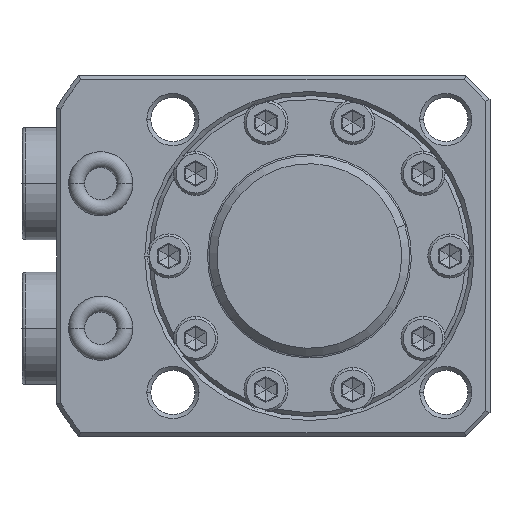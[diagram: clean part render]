
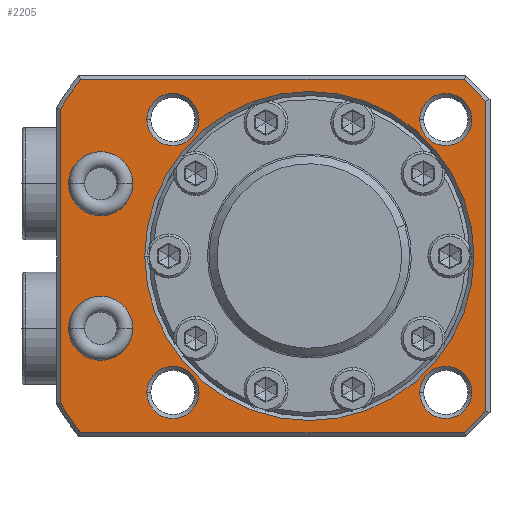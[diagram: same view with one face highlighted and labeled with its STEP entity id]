
A CAD part, front view. The second image highlights one B-rep face of the part: STEP entity #2205.
In plain terms, the highlighted planar face has unit normal (0, -1, 0).
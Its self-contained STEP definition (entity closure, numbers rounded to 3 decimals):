
#300=DIRECTION('',(-1.,0.,0.));
#301=VECTOR('',#300,47.789);
#302=CARTESIAN_POINT('',(19.293,-8.5,22.));
#303=LINE('',#302,#301);
#304=DIRECTION('',(-0.707,0.,0.707));
#305=VECTOR('',#304,3.828);
#306=CARTESIAN_POINT('',(22.,-8.5,19.293));
#307=LINE('',#306,#305);
#308=DIRECTION('',(0.,0.,1.));
#309=VECTOR('',#308,38.586);
#310=CARTESIAN_POINT('',(22.,-8.5,-19.293));
#311=LINE('',#310,#309);
#312=DIRECTION('',(0.707,0.,0.707));
#313=VECTOR('',#312,3.828);
#314=CARTESIAN_POINT('',(19.293,-8.5,-22.));
#315=LINE('',#314,#313);
#316=DIRECTION('',(1.,0.,0.));
#317=VECTOR('',#316,47.789);
#318=CARTESIAN_POINT('',(-28.496,-8.5,-22.));
#319=LINE('',#318,#317);
#320=CARTESIAN_POINT('',(0.,-8.5,0.));
#321=DIRECTION('',(0.,-1.,0.));
#322=DIRECTION('',(-0.861,0.,-0.508));
#323=AXIS2_PLACEMENT_3D('',#320,#321,#322);
#325=DIRECTION('',(0.,0.,-1.));
#326=VECTOR('',#325,36.606);
#327=CARTESIAN_POINT('',(-31.,-8.5,18.303));
#328=LINE('',#327,#326);
#329=CARTESIAN_POINT('',(0.,-8.5,0.));
#330=DIRECTION('',(0.,-1.,0.));
#331=DIRECTION('',(-0.792,0.,0.611));
#332=AXIS2_PLACEMENT_3D('',#329,#330,#331);
#334=CARTESIAN_POINT('',(-26.,-8.5,-9.));
#335=DIRECTION('',(0.,-1.,0.));
#336=DIRECTION('',(-1.,0.,0.));
#337=AXIS2_PLACEMENT_3D('',#334,#335,#336);
#339=CARTESIAN_POINT('',(-26.,-8.5,-9.));
#340=DIRECTION('',(0.,-1.,0.));
#341=DIRECTION('',(1.,0.,0.));
#342=AXIS2_PLACEMENT_3D('',#339,#340,#341);
#344=CARTESIAN_POINT('',(-26.,-8.5,9.));
#345=DIRECTION('',(0.,-1.,0.));
#346=DIRECTION('',(-1.,0.,0.));
#347=AXIS2_PLACEMENT_3D('',#344,#345,#346);
#349=CARTESIAN_POINT('',(-26.,-8.5,9.));
#350=DIRECTION('',(0.,-1.,0.));
#351=DIRECTION('',(1.,0.,0.));
#352=AXIS2_PLACEMENT_3D('',#349,#350,#351);
#354=CARTESIAN_POINT('',(17.,-8.5,17.));
#355=DIRECTION('',(0.,1.,0.));
#356=DIRECTION('',(-1.,0.,0.));
#357=AXIS2_PLACEMENT_3D('',#354,#355,#356);
#359=CARTESIAN_POINT('',(17.,-8.5,17.));
#360=DIRECTION('',(0.,1.,0.));
#361=DIRECTION('',(1.,0.,0.));
#362=AXIS2_PLACEMENT_3D('',#359,#360,#361);
#364=CARTESIAN_POINT('',(17.,-8.5,-17.));
#365=DIRECTION('',(0.,1.,0.));
#366=DIRECTION('',(-1.,0.,0.));
#367=AXIS2_PLACEMENT_3D('',#364,#365,#366);
#369=CARTESIAN_POINT('',(17.,-8.5,-17.));
#370=DIRECTION('',(0.,1.,0.));
#371=DIRECTION('',(1.,0.,0.));
#372=AXIS2_PLACEMENT_3D('',#369,#370,#371);
#374=CARTESIAN_POINT('',(-17.,-8.5,17.));
#375=DIRECTION('',(0.,1.,0.));
#376=DIRECTION('',(-1.,0.,0.));
#377=AXIS2_PLACEMENT_3D('',#374,#375,#376);
#379=CARTESIAN_POINT('',(-17.,-8.5,17.));
#380=DIRECTION('',(0.,1.,0.));
#381=DIRECTION('',(1.,0.,0.));
#382=AXIS2_PLACEMENT_3D('',#379,#380,#381);
#384=CARTESIAN_POINT('',(-17.,-8.5,-17.));
#385=DIRECTION('',(0.,1.,0.));
#386=DIRECTION('',(-1.,0.,0.));
#387=AXIS2_PLACEMENT_3D('',#384,#385,#386);
#389=CARTESIAN_POINT('',(-17.,-8.5,-17.));
#390=DIRECTION('',(0.,1.,0.));
#391=DIRECTION('',(1.,0.,0.));
#392=AXIS2_PLACEMENT_3D('',#389,#390,#391);
#394=CARTESIAN_POINT('',(0.,-8.5,0.));
#395=DIRECTION('',(0.,-1.,0.));
#396=DIRECTION('',(-1.,0.,0.));
#397=AXIS2_PLACEMENT_3D('',#394,#395,#396);
#399=CARTESIAN_POINT('',(0.,-8.5,0.));
#400=DIRECTION('',(0.,-1.,0.));
#401=DIRECTION('',(1.,0.,0.));
#402=AXIS2_PLACEMENT_3D('',#399,#400,#401);
#1489=CARTESIAN_POINT('',(-30.,-8.5,-9.));
#1490=CARTESIAN_POINT('',(-22.,-8.5,-9.));
#1491=VERTEX_POINT('',#1489);
#1492=VERTEX_POINT('',#1490);
#1497=CARTESIAN_POINT('',(-30.,-8.5,9.));
#1498=CARTESIAN_POINT('',(-22.,-8.5,9.));
#1499=VERTEX_POINT('',#1497);
#1500=VERTEX_POINT('',#1498);
#1501=CARTESIAN_POINT('',(13.75,-8.5,17.));
#1502=CARTESIAN_POINT('',(20.25,-8.5,17.));
#1503=VERTEX_POINT('',#1501);
#1504=VERTEX_POINT('',#1502);
#1509=CARTESIAN_POINT('',(13.75,-8.5,-17.));
#1510=CARTESIAN_POINT('',(20.25,-8.5,-17.));
#1511=VERTEX_POINT('',#1509);
#1512=VERTEX_POINT('',#1510);
#1517=CARTESIAN_POINT('',(-20.25,-8.5,17.));
#1518=CARTESIAN_POINT('',(-13.75,-8.5,17.));
#1519=VERTEX_POINT('',#1517);
#1520=VERTEX_POINT('',#1518);
#1525=CARTESIAN_POINT('',(-20.25,-8.5,-17.));
#1526=CARTESIAN_POINT('',(-13.75,-8.5,-17.));
#1527=VERTEX_POINT('',#1525);
#1528=VERTEX_POINT('',#1526);
#1553=CARTESIAN_POINT('',(-20.5,-8.5,0.));
#1554=CARTESIAN_POINT('',(20.5,-8.5,0.));
#1555=VERTEX_POINT('',#1553);
#1556=VERTEX_POINT('',#1554);
#1569=CARTESIAN_POINT('',(19.293,-8.5,22.));
#1570=CARTESIAN_POINT('',(-28.496,-8.5,22.));
#1571=VERTEX_POINT('',#1569);
#1572=VERTEX_POINT('',#1570);
#1589=CARTESIAN_POINT('',(-28.496,-8.5,-22.));
#1590=CARTESIAN_POINT('',(19.293,-8.5,-22.));
#1591=VERTEX_POINT('',#1589);
#1592=VERTEX_POINT('',#1590);
#1597=CARTESIAN_POINT('',(22.,-8.5,-19.293));
#1598=CARTESIAN_POINT('',(22.,-8.5,19.293));
#1599=VERTEX_POINT('',#1597);
#1600=VERTEX_POINT('',#1598);
#1613=CARTESIAN_POINT('',(-31.,-8.5,18.303));
#1614=CARTESIAN_POINT('',(-31.,-8.5,-18.303));
#1615=VERTEX_POINT('',#1613);
#1616=VERTEX_POINT('',#1614);
#2141=CARTESIAN_POINT('',(0.,-8.5,0.));
#2142=DIRECTION('',(0.,-1.,0.));
#2143=DIRECTION('',(-1.,0.,0.));
#2144=AXIS2_PLACEMENT_3D('',#2141,#2142,#2143);
#2145=PLANE('',#2144);
#2147=ORIENTED_EDGE('',*,*,#2146,.F.);
#2149=ORIENTED_EDGE('',*,*,#2148,.F.);
#2151=ORIENTED_EDGE('',*,*,#2150,.F.);
#2153=ORIENTED_EDGE('',*,*,#2152,.F.);
#2155=ORIENTED_EDGE('',*,*,#2154,.F.);
#2157=ORIENTED_EDGE('',*,*,#2156,.F.);
#2158=ORIENTED_EDGE('',*,*,#2131,.F.);
#2160=ORIENTED_EDGE('',*,*,#2159,.F.);
#2161=EDGE_LOOP('',(#2147,#2149,#2151,#2153,#2155,#2157,#2158,#2160));
#2162=FACE_OUTER_BOUND('',#2161,.F.);
#2164=ORIENTED_EDGE('',*,*,#2163,.T.);
#2166=ORIENTED_EDGE('',*,*,#2165,.T.);
#2167=EDGE_LOOP('',(#2164,#2166));
#2168=FACE_BOUND('',#2167,.F.);
#2170=ORIENTED_EDGE('',*,*,#2169,.T.);
#2172=ORIENTED_EDGE('',*,*,#2171,.T.);
#2173=EDGE_LOOP('',(#2170,#2172));
#2174=FACE_BOUND('',#2173,.F.);
#2176=ORIENTED_EDGE('',*,*,#2175,.F.);
#2178=ORIENTED_EDGE('',*,*,#2177,.F.);
#2179=EDGE_LOOP('',(#2176,#2178));
#2180=FACE_BOUND('',#2179,.F.);
#2182=ORIENTED_EDGE('',*,*,#2181,.F.);
#2184=ORIENTED_EDGE('',*,*,#2183,.F.);
#2185=EDGE_LOOP('',(#2182,#2184));
#2186=FACE_BOUND('',#2185,.F.);
#2188=ORIENTED_EDGE('',*,*,#2187,.F.);
#2190=ORIENTED_EDGE('',*,*,#2189,.F.);
#2191=EDGE_LOOP('',(#2188,#2190));
#2192=FACE_BOUND('',#2191,.F.);
#2194=ORIENTED_EDGE('',*,*,#2193,.F.);
#2196=ORIENTED_EDGE('',*,*,#2195,.F.);
#2197=EDGE_LOOP('',(#2194,#2196));
#2198=FACE_BOUND('',#2197,.F.);
#2200=ORIENTED_EDGE('',*,*,#2199,.T.);
#2202=ORIENTED_EDGE('',*,*,#2201,.T.);
#2203=EDGE_LOOP('',(#2200,#2202));
#2204=FACE_BOUND('',#2203,.F.);
#2205=ADVANCED_FACE('',(#2162,#2168,#2174,#2180,#2186,#2192,#2198,#2204),#2145,
.T.);
#324=CIRCLE('',#323,36.);
#333=CIRCLE('',#332,36.);
#338=CIRCLE('',#337,4.);
#343=CIRCLE('',#342,4.);
#348=CIRCLE('',#347,4.);
#353=CIRCLE('',#352,4.);
#358=CIRCLE('',#357,3.25);
#363=CIRCLE('',#362,3.25);
#368=CIRCLE('',#367,3.25);
#373=CIRCLE('',#372,3.25);
#378=CIRCLE('',#377,3.25);
#383=CIRCLE('',#382,3.25);
#388=CIRCLE('',#387,3.25);
#393=CIRCLE('',#392,3.25);
#398=CIRCLE('',#397,20.5);
#403=CIRCLE('',#402,20.5);
#2131=EDGE_CURVE('',#1615,#1616,#328,.T.);
#2146=EDGE_CURVE('',#1571,#1572,#303,.T.);
#2148=EDGE_CURVE('',#1600,#1571,#307,.T.);
#2150=EDGE_CURVE('',#1599,#1600,#311,.T.);
#2152=EDGE_CURVE('',#1592,#1599,#315,.T.);
#2154=EDGE_CURVE('',#1591,#1592,#319,.T.);
#2156=EDGE_CURVE('',#1616,#1591,#324,.T.);
#2159=EDGE_CURVE('',#1572,#1615,#333,.T.);
#2163=EDGE_CURVE('',#1491,#1492,#338,.T.);
#2165=EDGE_CURVE('',#1492,#1491,#343,.T.);
#2169=EDGE_CURVE('',#1499,#1500,#348,.T.);
#2171=EDGE_CURVE('',#1500,#1499,#353,.T.);
#2175=EDGE_CURVE('',#1503,#1504,#358,.T.);
#2177=EDGE_CURVE('',#1504,#1503,#363,.T.);
#2181=EDGE_CURVE('',#1511,#1512,#368,.T.);
#2183=EDGE_CURVE('',#1512,#1511,#373,.T.);
#2187=EDGE_CURVE('',#1519,#1520,#378,.T.);
#2189=EDGE_CURVE('',#1520,#1519,#383,.T.);
#2193=EDGE_CURVE('',#1527,#1528,#388,.T.);
#2195=EDGE_CURVE('',#1528,#1527,#393,.T.);
#2199=EDGE_CURVE('',#1555,#1556,#398,.T.);
#2201=EDGE_CURVE('',#1556,#1555,#403,.T.);
